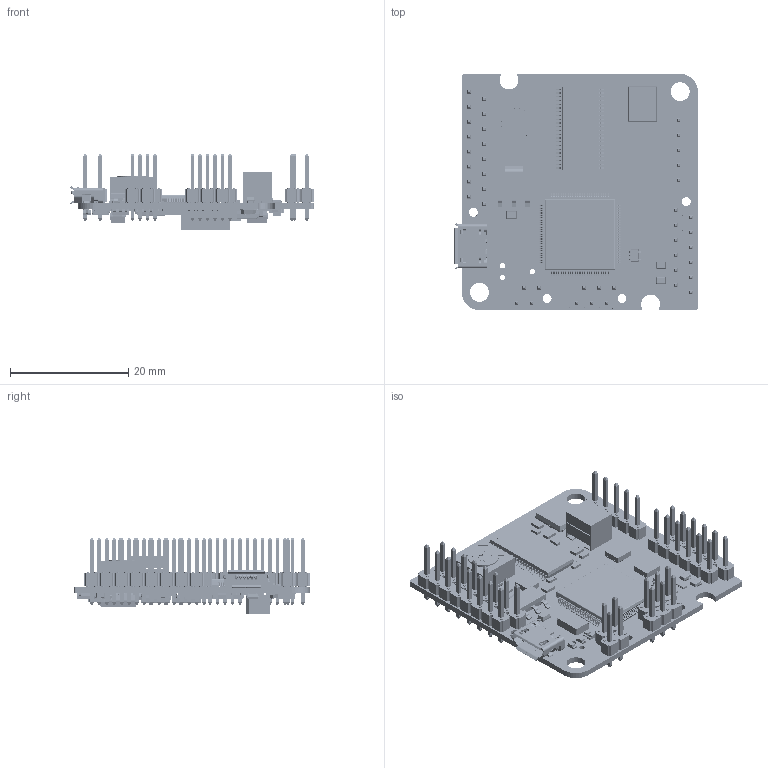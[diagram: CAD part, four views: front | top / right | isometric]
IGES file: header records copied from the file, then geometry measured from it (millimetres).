
Start section: SolidWorks IGES file using analytic representation for surfaces
Global section: file name: C:\Users\abolet\Desktop\i032-01H1(PIN_HEADER_CONN).IGS; native system: SolidWorks 2014; preprocessor: SolidWorks 2014; author: abolet; date: 150521.155406; units: millimetre
Bounding box: 41.31 x 40.02 x 13.04 mm (x, y, z)
Surface area: 9683.7 mm2 (no closed solid volume)
Topology: 0 solids, 0 shells, 11752 faces, 73630 edges, 73521 vertices
Faces by surface type: bspline 9104, revolution 2648
